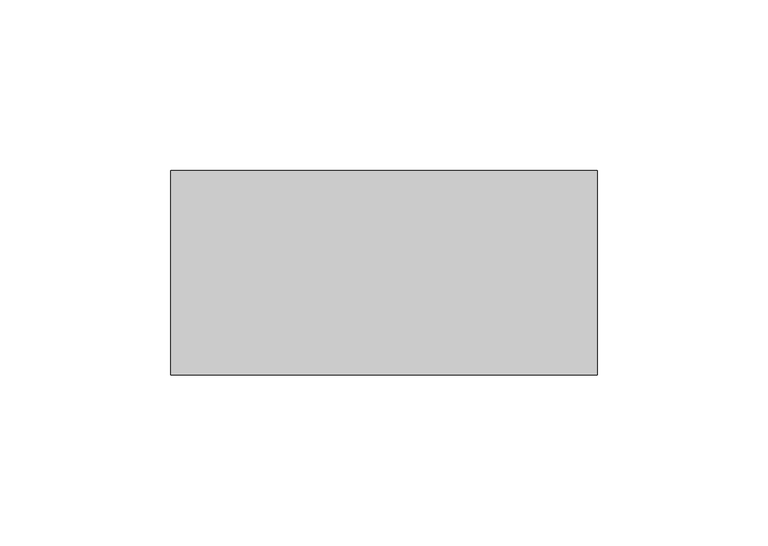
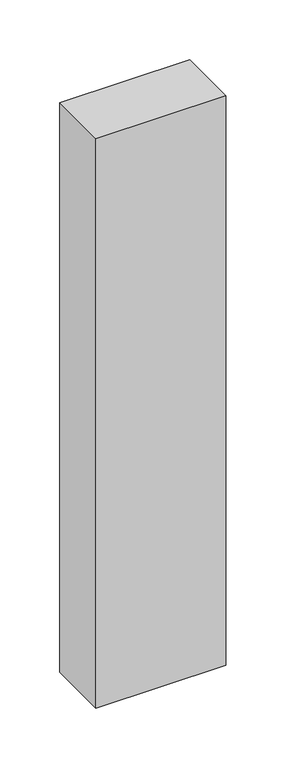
"""IFC4 building model written with IfcOpenShell, lengths in millimetres: plate geometry, Системная панель : Алюкобонд серый."""

from ifc_helpers import new_model, si_unit, origin, origin_with_axes, place, context, project, spatial, polyline, outline, extrude, source, transform, mapped, element, save


def plate_72ebb851(model_context):
    return source(origin(), model_context, "Body", "SweptSolid", [
        extrude(outline(polyline([(62.593449, -49.5), (-62.593449, -49.5), (-62.593449, 10.5), (62.593449, 10.5), (62.593449, -49.5)])), origin_with_axes(), (0.0, 0.0, 1.0), 580.0),
    ])


if __name__ == "__main__":
    model = new_model("IFC4")
    model_context = context("Model", 3, world=origin())
    ifc_project = project(units=[si_unit("LENGTHUNIT", "METRE", prefix="MILLI")], contexts=[model_context])
    site = spatial("IfcSite", under=ifc_project)
    building = spatial("IfcBuilding", under=site)
    placement = place(None, origin())
    plate_shape = plate_72ebb851(model_context)
    element("IfcPlate", 1, ObjectType="Системная панель : Алюкобонд серый", at=placement, inside=building, context=model_context, shape_type="MappedRepresentation", body=[
        mapped(plate_shape, transform((0.0, 0.0, 0.0), x_axis=(1.0, 0.0, 0.0), y_axis=(0.0, 1.0, 0.0), z_axis=(0.0, 0.0, 1.0))),
    ])
    save(model, "model.ifc")
